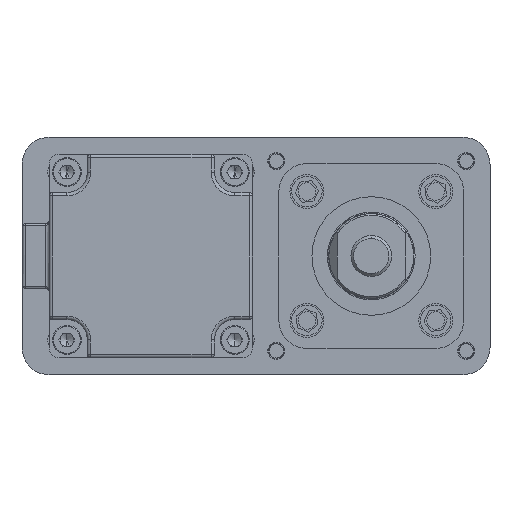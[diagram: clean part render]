
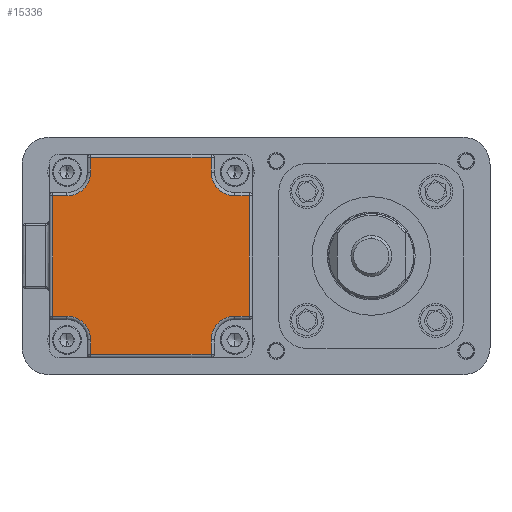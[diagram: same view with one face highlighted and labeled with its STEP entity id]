
A CAD part, left-side view. The second image highlights one B-rep face of the part: STEP entity #15336.
In plain terms, the highlighted planar face has unit normal (-1, 0, 0) as drawn and (0, 0, 1) by its records, which use the part's own axes.
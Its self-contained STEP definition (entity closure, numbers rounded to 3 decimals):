
#8482 = CARTESIAN_POINT ( 'NONE',  ( -38.047, 15.546, 379.317 ) ) ;
#8487 = CARTESIAN_POINT ( 'NONE',  ( -38.047, 19.798, 379.317 ) ) ;
#8493 = CARTESIAN_POINT ( 'NONE',  ( -45.047, 8.546, 379.317 ) ) ;
#8494 = CARTESIAN_POINT ( 'NONE',  ( -49.299, 8.546, 379.317 ) ) ;
#8495 = CARTESIAN_POINT ( 'NONE',  ( -49.299, -26.951, 379.317 ) ) ;
#8496 = CARTESIAN_POINT ( 'NONE',  ( -45.047, -26.951, 379.317 ) ) ;
#8497 = CARTESIAN_POINT ( 'NONE',  ( -38.047, -33.951, 379.317 ) ) ;
#8498 = CARTESIAN_POINT ( 'NONE',  ( -38.047, -38.202, 379.317 ) ) ;
#8499 = CARTESIAN_POINT ( 'NONE',  ( -2.55, -38.202, 379.317 ) ) ;
#8500 = CARTESIAN_POINT ( 'NONE',  ( -2.55, -33.951, 379.317 ) ) ;
#8501 = CARTESIAN_POINT ( 'NONE',  ( 4.45, -26.951, 379.317 ) ) ;
#8502 = CARTESIAN_POINT ( 'NONE',  ( 8.701, -26.951, 379.317 ) ) ;
#8503 = CARTESIAN_POINT ( 'NONE',  ( 8.701, 8.546, 379.317 ) ) ;
#8504 = CARTESIAN_POINT ( 'NONE',  ( 4.45, 8.546, 379.317 ) ) ;
#8505 = CARTESIAN_POINT ( 'NONE',  ( -2.55, 15.546, 379.317 ) ) ;
#8506 = CARTESIAN_POINT ( 'NONE',  ( -2.55, 19.798, 379.317 ) ) ;
#10474 = ORIENTED_EDGE ( 'NONE', *, *, #11830, .T. ) ;
#10475 = ORIENTED_EDGE ( 'NONE', *, *, #11831, .T. ) ;
#10476 = ORIENTED_EDGE ( 'NONE', *, *, #11832, .T. ) ;
#10477 = ORIENTED_EDGE ( 'NONE', *, *, #11833, .T. ) ;
#10478 = ORIENTED_EDGE ( 'NONE', *, *, #11834, .T. ) ;
#10479 = ORIENTED_EDGE ( 'NONE', *, *, #11835, .T. ) ;
#10480 = ORIENTED_EDGE ( 'NONE', *, *, #11836, .T. ) ;
#10481 = ORIENTED_EDGE ( 'NONE', *, *, #11837, .T. ) ;
#10482 = ORIENTED_EDGE ( 'NONE', *, *, #11838, .T. ) ;
#10483 = ORIENTED_EDGE ( 'NONE', *, *, #11839, .T. ) ;
#10484 = ORIENTED_EDGE ( 'NONE', *, *, #11840, .T. ) ;
#10485 = ORIENTED_EDGE ( 'NONE', *, *, #11841, .T. ) ;
#10486 = ORIENTED_EDGE ( 'NONE', *, *, #11842, .T. ) ;
#10487 = ORIENTED_EDGE ( 'NONE', *, *, #11843, .T. ) ;
#10488 = ORIENTED_EDGE ( 'NONE', *, *, #11844, .T. ) ;
#10489 = ORIENTED_EDGE ( 'NONE', *, *, #11845, .T. ) ;
#11830 = EDGE_CURVE ( 'NONE', #24409, #24404, #34777, .T. ) ;
#11831 = EDGE_CURVE ( 'NONE', #24404, #24415, #34783, .T. ) ;
#11832 = EDGE_CURVE ( 'NONE', #24415, #24416, #34789, .T. ) ;
#11833 = EDGE_CURVE ( 'NONE', #24416, #24417, #34791, .T. ) ;
#11834 = EDGE_CURVE ( 'NONE', #24417, #24418, #34794, .T. ) ;
#11835 = EDGE_CURVE ( 'NONE', #24418, #24419, #34798, .T. ) ;
#11836 = EDGE_CURVE ( 'NONE', #24419, #24420, #34802, .T. ) ;
#11837 = EDGE_CURVE ( 'NONE', #24420, #24421, #34803, .T. ) ;
#11838 = EDGE_CURVE ( 'NONE', #24421, #24422, #34808, .T. ) ;
#11839 = EDGE_CURVE ( 'NONE', #24422, #24423, #34811, .T. ) ;
#11840 = EDGE_CURVE ( 'NONE', #24423, #24424, #34813, .T. ) ;
#11841 = EDGE_CURVE ( 'NONE', #24424, #24425, #34815, .T. ) ;
#11842 = EDGE_CURVE ( 'NONE', #24425, #24426, #34818, .T. ) ;
#11843 = EDGE_CURVE ( 'NONE', #24426, #24427, #34822, .T. ) ;
#11844 = EDGE_CURVE ( 'NONE', #24427, #24428, #34825, .T. ) ;
#11845 = EDGE_CURVE ( 'NONE', #24428, #24409, #34826, .T. ) ;
#15336 = ADVANCED_FACE ( 'NONE', ( #29704 ), #34263, .T. ) ;
#20850 = EDGE_LOOP ( 'NONE', ( #10474, #10475, #10476, #10477, #10478, #10479, #10480, #10481, #10482, #10483, #10484, #10485, #10486, #10487, #10488, #10489 ) ) ;
#24404 = VERTEX_POINT ( 'NONE', #8482 ) ;
#24409 = VERTEX_POINT ( 'NONE', #8487 ) ;
#24415 = VERTEX_POINT ( 'NONE', #8493 ) ;
#24416 = VERTEX_POINT ( 'NONE', #8494 ) ;
#24417 = VERTEX_POINT ( 'NONE', #8495 ) ;
#24418 = VERTEX_POINT ( 'NONE', #8496 ) ;
#24419 = VERTEX_POINT ( 'NONE', #8497 ) ;
#24420 = VERTEX_POINT ( 'NONE', #8498 ) ;
#24421 = VERTEX_POINT ( 'NONE', #8499 ) ;
#24422 = VERTEX_POINT ( 'NONE', #8500 ) ;
#24423 = VERTEX_POINT ( 'NONE', #8501 ) ;
#24424 = VERTEX_POINT ( 'NONE', #8502 ) ;
#24425 = VERTEX_POINT ( 'NONE', #8503 ) ;
#24426 = VERTEX_POINT ( 'NONE', #8504 ) ;
#24427 = VERTEX_POINT ( 'NONE', #8505 ) ;
#24428 = VERTEX_POINT ( 'NONE', #8506 ) ;
#28737 = AXIS2_PLACEMENT_3D ( 'NONE', #34261, #34266, #34267 ) ;
#29704 = FACE_OUTER_BOUND ( 'NONE', #20850, .T. ) ;
#31875 = DIRECTION ( 'NONE',  ( -1., 0., 0. ) ) ;
#31879 = DIRECTION ( 'NONE',  ( 0., -1., 0. ) ) ;
#31883 = CARTESIAN_POINT ( 'NONE',  ( -38.047, 15.546, 379.317 ) ) ;
#31887 = CARTESIAN_POINT ( 'NONE',  ( -49.299, 8.546, 379.317 ) ) ;
#31888 = CARTESIAN_POINT ( 'NONE',  ( -38.047, -38.202, 379.317 ) ) ;
#31889 = DIRECTION ( 'NONE',  ( 0., -1., 0. ) ) ;
#31890 = CARTESIAN_POINT ( 'NONE',  ( -45.047, 15.546, 379.317 ) ) ;
#31891 = DIRECTION ( 'NONE',  ( 0., 0., -1. ) ) ;
#31892 = DIRECTION ( 'NONE',  ( 0., -1., 0. ) ) ;
#31893 = CARTESIAN_POINT ( 'NONE',  ( -49.299, -26.951, 379.317 ) ) ;
#31894 = DIRECTION ( 'NONE',  ( 0., -1., 0. ) ) ;
#31895 = CARTESIAN_POINT ( 'NONE',  ( -45.047, -26.951, 379.317 ) ) ;
#31896 = DIRECTION ( 'NONE',  ( 1., 0., 0. ) ) ;
#31897 = CARTESIAN_POINT ( 'NONE',  ( 8.701, -26.951, 379.317 ) ) ;
#31898 = DIRECTION ( 'NONE',  ( 1., 0., 0. ) ) ;
#31899 = CARTESIAN_POINT ( 'NONE',  ( -45.047, -33.951, 379.317 ) ) ;
#31900 = DIRECTION ( 'NONE',  ( 0., 0., -1. ) ) ;
#31901 = DIRECTION ( 'NONE',  ( 0., -1., 0. ) ) ;
#31902 = CARTESIAN_POINT ( 'NONE',  ( -2.55, -38.202, 379.317 ) ) ;
#31903 = DIRECTION ( 'NONE',  ( 1., 0., 0. ) ) ;
#31904 = CARTESIAN_POINT ( 'NONE',  ( -2.55, -33.951, 379.317 ) ) ;
#31905 = DIRECTION ( 'NONE',  ( 0., 1., 0. ) ) ;
#31906 = CARTESIAN_POINT ( 'NONE',  ( -2.55, 19.798, 379.317 ) ) ;
#31907 = DIRECTION ( 'NONE',  ( 0., 1., 0. ) ) ;
#31908 = CARTESIAN_POINT ( 'NONE',  ( 4.45, -33.951, 379.317 ) ) ;
#31909 = DIRECTION ( 'NONE',  ( 0., 0., -1. ) ) ;
#31910 = DIRECTION ( 'NONE',  ( 0., -1., 0. ) ) ;
#31911 = CARTESIAN_POINT ( 'NONE',  ( 8.701, 8.546, 379.317 ) ) ;
#31912 = DIRECTION ( 'NONE',  ( 0., 1., 0. ) ) ;
#31913 = CARTESIAN_POINT ( 'NONE',  ( 4.45, 8.546, 379.317 ) ) ;
#31914 = DIRECTION ( 'NONE',  ( -1., 0., 0. ) ) ;
#31915 = CARTESIAN_POINT ( 'NONE',  ( 4.45, 15.546, 379.317 ) ) ;
#31916 = DIRECTION ( 'NONE',  ( 0., 0., -1. ) ) ;
#31917 = DIRECTION ( 'NONE',  ( 0., -1., 0. ) ) ;
#31918 = CARTESIAN_POINT ( 'NONE',  ( -38.047, 19.798, 379.317 ) ) ;
#31919 = DIRECTION ( 'NONE',  ( -1., 0., 0. ) ) ;
#32673 = AXIS2_PLACEMENT_3D ( 'NONE', #31890, #31891, #31892 ) ;
#32675 = AXIS2_PLACEMENT_3D ( 'NONE', #31899, #31900, #31901 ) ;
#32677 = AXIS2_PLACEMENT_3D ( 'NONE', #31908, #31909, #31910 ) ;
#32679 = AXIS2_PLACEMENT_3D ( 'NONE', #31915, #31916, #31917 ) ;
#34261 = CARTESIAN_POINT ( 'NONE',  ( -20.299, -9.202, 379.317 ) ) ;
#34263 = PLANE ( 'NONE',  #28737 ) ;
#34266 = DIRECTION ( 'NONE',  ( 0., 0., 1. ) ) ;
#34267 = DIRECTION ( 'NONE',  ( 0., -1., 0. ) ) ;
#34777 = LINE ( 'NONE', #31883, #34787 ) ;
#34783 = CIRCLE ( 'NONE', #32673, 7. ) ;
#34787 = VECTOR ( 'NONE', #31879, 1000. ) ;
#34789 = LINE ( 'NONE', #31887, #34792 ) ;
#34791 = LINE ( 'NONE', #31893, #34796 ) ;
#34792 = VECTOR ( 'NONE', #31875, 1000. ) ;
#34794 = LINE ( 'NONE', #31895, #34800 ) ;
#34796 = VECTOR ( 'NONE', #31894, 1000. ) ;
#34798 = CIRCLE ( 'NONE', #32675, 7. ) ;
#34800 = VECTOR ( 'NONE', #31896, 1000. ) ;
#34802 = LINE ( 'NONE', #31888, #34806 ) ;
#34803 = LINE ( 'NONE', #31902, #34810 ) ;
#34806 = VECTOR ( 'NONE', #31889, 1000. ) ;
#34808 = LINE ( 'NONE', #31904, #34812 ) ;
#34810 = VECTOR ( 'NONE', #31903, 1000. ) ;
#34811 = CIRCLE ( 'NONE', #32677, 7. ) ;
#34812 = VECTOR ( 'NONE', #31905, 1000. ) ;
#34813 = LINE ( 'NONE', #31897, #34816 ) ;
#34815 = LINE ( 'NONE', #31911, #34820 ) ;
#34816 = VECTOR ( 'NONE', #31898, 1000. ) ;
#34818 = LINE ( 'NONE', #31913, #34824 ) ;
#34820 = VECTOR ( 'NONE', #31912, 1000. ) ;
#34822 = CIRCLE ( 'NONE', #32679, 7. ) ;
#34824 = VECTOR ( 'NONE', #31914, 1000. ) ;
#34825 = LINE ( 'NONE', #31906, #34827 ) ;
#34826 = LINE ( 'NONE', #31918, #34831 ) ;
#34827 = VECTOR ( 'NONE', #31907, 1000. ) ;
#34831 = VECTOR ( 'NONE', #31919, 1000. ) ;
